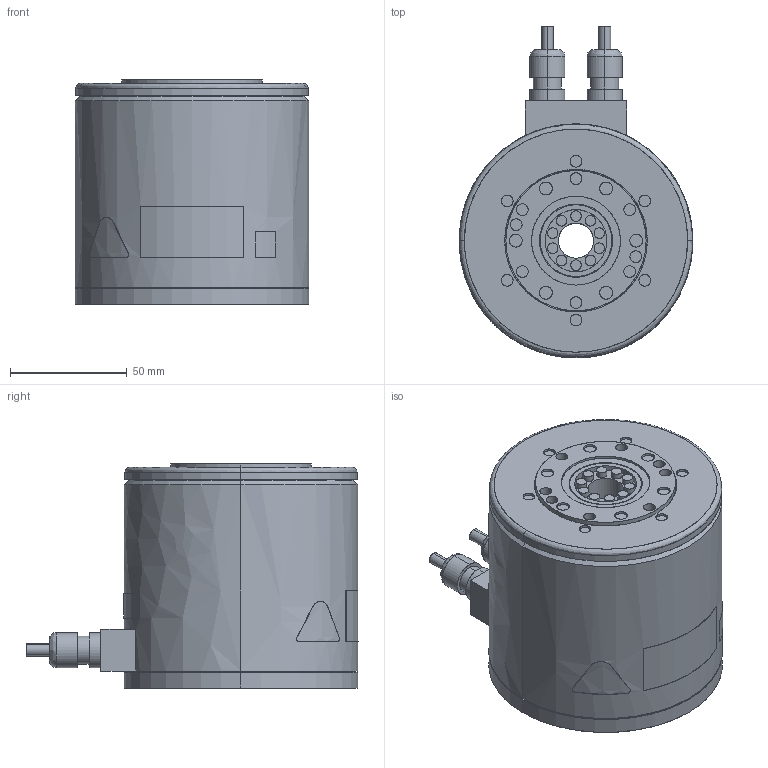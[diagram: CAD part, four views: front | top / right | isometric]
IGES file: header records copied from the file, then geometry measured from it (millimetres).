
Start section: SolidWorks IGES file using analytic representation for surfaces
Bounding box: 100 x 142.1 x 96 mm (x, y, z)
Surface area: 58130.8 mm2 (no closed solid volume)
Topology: 0 solids, 0 shells, 227 faces, 5436 edges, 5436 vertices
Faces by surface type: revolution 135, bspline 92
